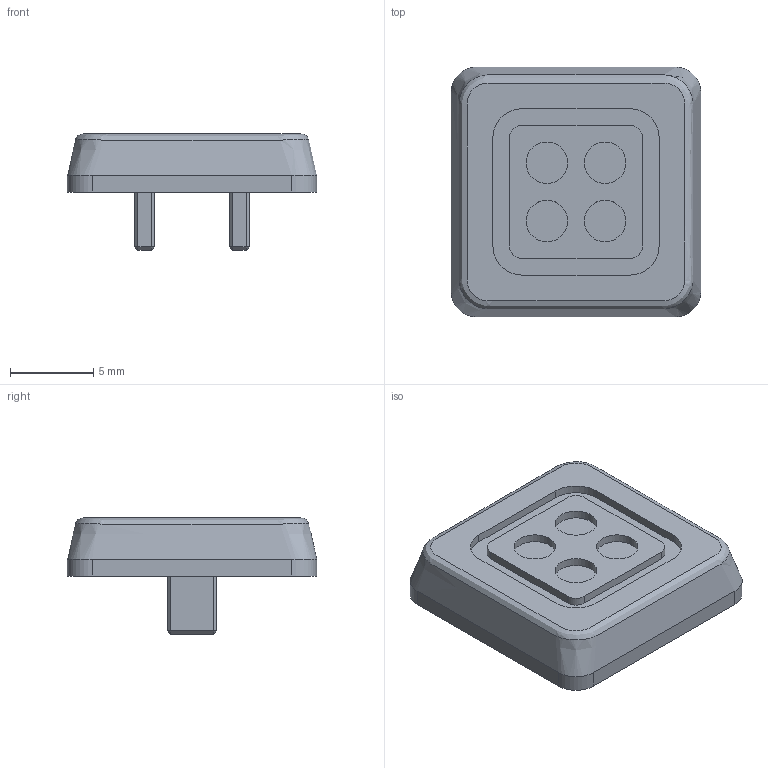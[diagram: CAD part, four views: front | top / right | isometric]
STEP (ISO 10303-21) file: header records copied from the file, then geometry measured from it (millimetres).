
FILE_DESCRIPTION(/* description */ (''),/* implementation_level */ '2;1');
FILE_NAME(/* name */ 'button_autofocus.step',/* time_stamp */ '2026-07-06T12:57:16-05:00',/* author */ (''),/* organization */ (''),/* preprocessor_version */ 'ST-DEVELOPER v20.1',/* originating_system */ 'Autodesk Translation Framework v15.8.0.0',/* authorisation */ '');
FILE_SCHEMA (('AUTOMOTIVE_DESIGN { 1 0 10303 214 3 1 1 }'));
Length unit declared in the file: millimetre
Products named in the file (1): SaturnixLite_Hull
Bounding box: 15 x 15 x 7 mm (x, y, z)
Volume: 640.7 mm3; surface area: 744.3 mm2
Topology: 1 solids, 1 shells, 81 faces, 192 edges, 122 vertices
Faces by surface type: plane 59, cylinder 20, bspline 2
Full cylindrical faces by diameter (mm): 2.5 x4
Entity records: 3309 total; most frequent: CARTESIAN_POINT 1399, ORIENTED_EDGE 384, DIRECTION 383, EDGE_CURVE 192, LINE 141, VECTOR 141, VERTEX_POINT 122, AXIS2_PLACEMENT_3D 121
